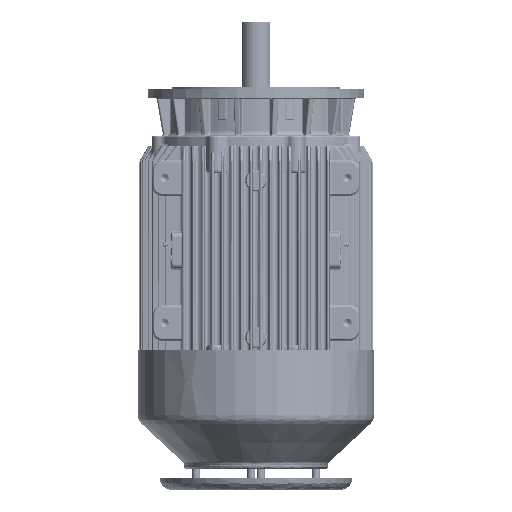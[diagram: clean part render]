
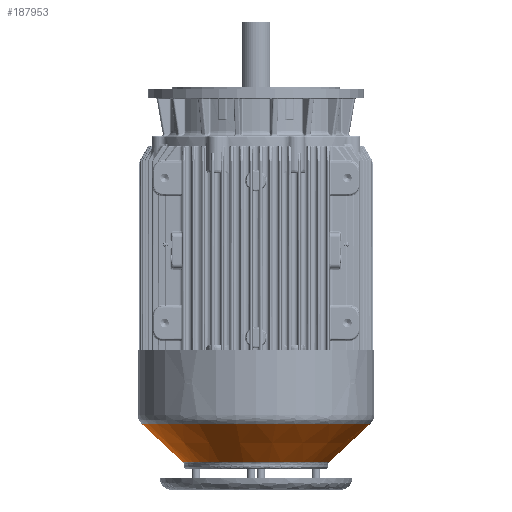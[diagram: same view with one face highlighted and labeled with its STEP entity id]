
A CAD part, front view. The second image highlights one B-rep face of the part: STEP entity #187953.
In plain terms, the highlighted conical face has half-angle 47 degrees and reference radius 237.55 mm.
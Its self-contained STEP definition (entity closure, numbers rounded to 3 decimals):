
#7838 = CARTESIAN_POINT ( 'NONE',  ( 152.544, 0., -661.683 ) ) ;
#23621 = FACE_OUTER_BOUND ( 'NONE', #58047, .T. ) ;
#27378 = DIRECTION ( 'NONE',  ( 0., 0., 1. ) ) ;
#36116 = EDGE_CURVE ( 'NONE', #272909, #69485, #128964, .T. ) ;
#45817 = CARTESIAN_POINT ( 'NONE',  ( 0., 0., -582.414 ) ) ;
#46398 = AXIS2_PLACEMENT_3D ( 'NONE', #113719, #27378, #134636 ) ;
#58047 = EDGE_LOOP ( 'NONE', ( #209802, #173896, #95884, #177925 ) ) ;
#58524 = LINE ( 'NONE', #215666, #109377 ) ;
#65616 = CARTESIAN_POINT ( 'NONE',  ( 237.55, 0., -582.414 ) ) ;
#69485 = VERTEX_POINT ( 'NONE', #196015 ) ;
#83708 = AXIS2_PLACEMENT_3D ( 'NONE', #210105, #144696, #94103 ) ;
#87398 = DIRECTION ( 'NONE',  ( 0.731, 0., 0.682 ) ) ;
#91282 = DIRECTION ( 'NONE',  ( 1., 0., 0. ) ) ;
#94103 = DIRECTION ( 'NONE',  ( 1., 0., 0. ) ) ;
#95884 = ORIENTED_EDGE ( 'NONE', *, *, #216490, .T. ) ;
#100088 = EDGE_CURVE ( 'NONE', #141317, #197971, #115376, .T. ) ;
#101956 = AXIS2_PLACEMENT_3D ( 'NONE', #45817, #219449, #91282 ) ;
#109377 = VECTOR ( 'NONE', #110242, 1000. ) ;
#110242 = DIRECTION ( 'NONE',  ( -0.731, 0., 0.682 ) ) ;
#113719 = CARTESIAN_POINT ( 'NONE',  ( 0., 0., -582.414 ) ) ;
#115376 = CIRCLE ( 'NONE', #83708, 152.544 ) ;
#127101 = LINE ( 'NONE', #65616, #133928 ) ;
#128964 = CIRCLE ( 'NONE', #101956, 237.55 ) ;
#133928 = VECTOR ( 'NONE', #87398, 1000. ) ;
#134636 = DIRECTION ( 'NONE',  ( 1., 0., 0. ) ) ;
#141317 = VERTEX_POINT ( 'NONE', #235648 ) ;
#144696 = DIRECTION ( 'NONE',  ( 0., 0., 1. ) ) ;
#173896 = ORIENTED_EDGE ( 'NONE', *, *, #100088, .T. ) ;
#177925 = ORIENTED_EDGE ( 'NONE', *, *, #36116, .F. ) ;
#187953 = ADVANCED_FACE ( 'NONE', ( #23621 ), #267959, .T. ) ;
#196015 = CARTESIAN_POINT ( 'NONE',  ( 237.55, 0., -582.414 ) ) ;
#197971 = VERTEX_POINT ( 'NONE', #7838 ) ;
#209802 = ORIENTED_EDGE ( 'NONE', *, *, #273370, .F. ) ;
#210105 = CARTESIAN_POINT ( 'NONE',  ( 0., 0., -661.683 ) ) ;
#215666 = CARTESIAN_POINT ( 'NONE',  ( -237.55, 0., -582.414 ) ) ;
#216490 = EDGE_CURVE ( 'NONE', #197971, #69485, #127101, .T. ) ;
#219449 = DIRECTION ( 'NONE',  ( 0., 0., 1. ) ) ;
#235648 = CARTESIAN_POINT ( 'NONE',  ( -152.544, 0., -661.683 ) ) ;
#267959 = CONICAL_SURFACE ( 'NONE', #46398, 237.55, 0.82 ) ;
#272909 = VERTEX_POINT ( 'NONE', #278843 ) ;
#273370 = EDGE_CURVE ( 'NONE', #141317, #272909, #58524, .T. ) ;
#278843 = CARTESIAN_POINT ( 'NONE',  ( -237.55, 0., -582.414 ) ) ;
